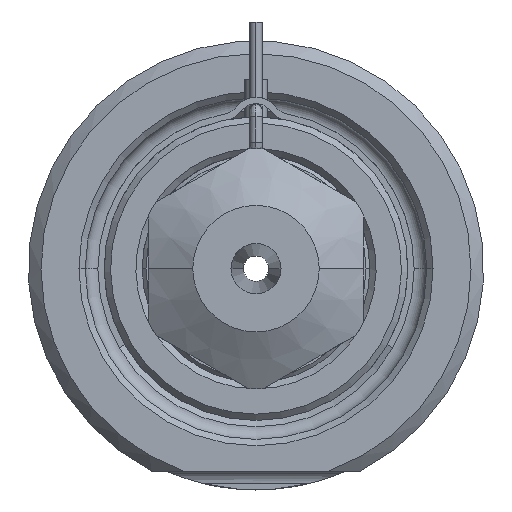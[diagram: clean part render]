
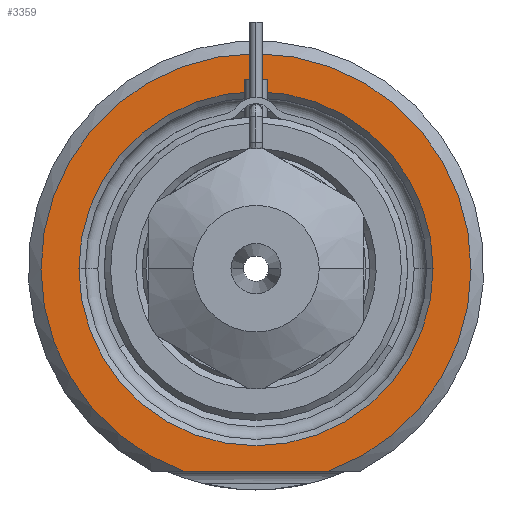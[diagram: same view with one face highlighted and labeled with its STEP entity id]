
A CAD part, front view. The second image highlights one B-rep face of the part: STEP entity #3359.
In plain terms, the highlighted planar face has unit normal (0, -1, 0).
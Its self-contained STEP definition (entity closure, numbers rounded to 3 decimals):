
#670=DIRECTION('',(1.,0.,0.));
#671=VECTOR('',#670,11.489);
#672=CARTESIAN_POINT('',(-5.745,0.,-16.));
#673=LINE('',#672,#671);
#674=CARTESIAN_POINT('',(0.,0.,0.));
#675=DIRECTION('',(0.,1.,0.));
#676=DIRECTION('',(-1.,0.,0.));
#677=AXIS2_PLACEMENT_3D('',#674,#675,#676);
#679=CARTESIAN_POINT('',(0.,0.,0.));
#680=DIRECTION('',(0.,1.,0.));
#681=DIRECTION('',(1.,0.,0.));
#682=AXIS2_PLACEMENT_3D('',#679,#680,#681);
#786=CARTESIAN_POINT('',(0.,0.,0.));
#787=DIRECTION('',(0.,-1.,0.));
#788=DIRECTION('',(0.338,0.,-0.941));
#789=AXIS2_PLACEMENT_3D('',#786,#787,#788);
#2142=CARTESIAN_POINT('',(-14.,0.,0.));
#2143=CARTESIAN_POINT('',(14.,0.,0.));
#2144=VERTEX_POINT('',#2142);
#2145=VERTEX_POINT('',#2143);
#2182=CARTESIAN_POINT('',(-5.745,0.,-16.));
#2183=CARTESIAN_POINT('',(5.745,0.,-16.));
#2184=VERTEX_POINT('',#2182);
#2185=VERTEX_POINT('',#2183);
#3343=CARTESIAN_POINT('',(0.,0.,0.));
#3344=DIRECTION('',(0.,-1.,0.));
#3345=DIRECTION('',(1.,0.,0.));
#3346=AXIS2_PLACEMENT_3D('',#3343,#3344,#3345);
#3347=PLANE('',#3346);
#3349=ORIENTED_EDGE('',*,*,#3348,.F.);
#3351=ORIENTED_EDGE('',*,*,#3350,.F.);
#3352=EDGE_LOOP('',(#3349,#3351));
#3353=FACE_OUTER_BOUND('',#3352,.F.);
#3355=ORIENTED_EDGE('',*,*,#3354,.F.);
#3356=ORIENTED_EDGE('',*,*,#3333,.F.);
#3357=EDGE_LOOP('',(#3355,#3356));
#3358=FACE_BOUND('',#3357,.F.);
#3359=ADVANCED_FACE('',(#3353,#3358),#3347,.T.);
#678=CIRCLE('',#677,14.);
#683=CIRCLE('',#682,14.);
#790=CIRCLE('',#789,17.);
#3333=EDGE_CURVE('',#2145,#2144,#683,.T.);
#3348=EDGE_CURVE('',#2184,#2185,#673,.T.);
#3350=EDGE_CURVE('',#2185,#2184,#790,.T.);
#3354=EDGE_CURVE('',#2144,#2145,#678,.T.);
